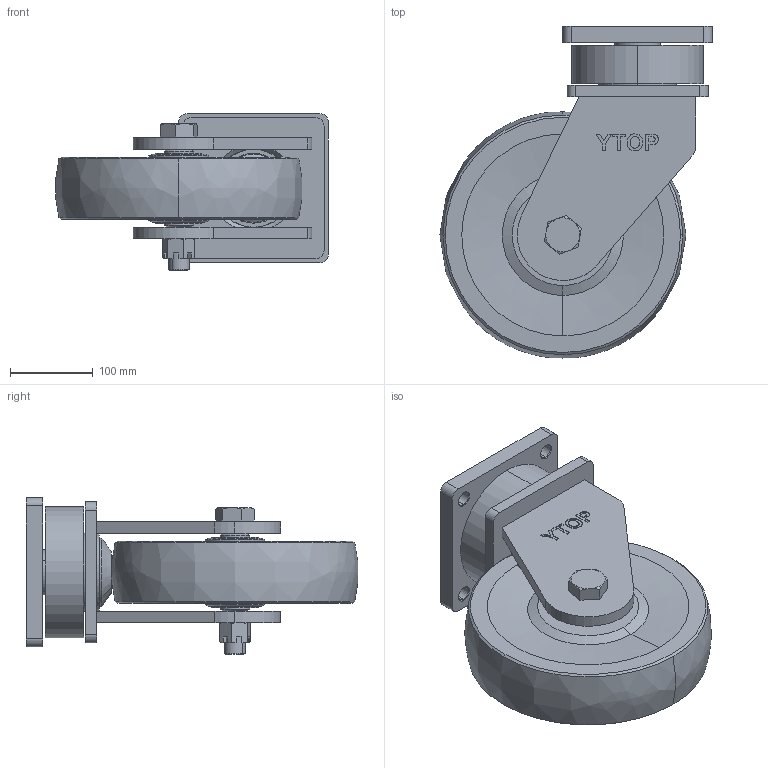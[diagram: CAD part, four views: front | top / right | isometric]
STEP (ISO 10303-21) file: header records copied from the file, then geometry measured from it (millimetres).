
FILE_DESCRIPTION (( 'STEP AP203' ), '1' );
FILE_NAME ('26-300H-75-MC.STEP', '2022-08-20T04:01:04', ( '' ), ( '' ), 'SwSTEP 2.0', 'SolidWorks 2016', '' );
FILE_SCHEMA (( 'CONFIG_CONTROL_DESIGN' ));
Length unit declared in the file: millimetre
Products named in the file (1): 26-300H-75-MC
Bounding box: 328.3 x 400.06 x 189 mm (x, y, z)
Volume: 7965056.8 mm3; surface area: 621980.2 mm2
Topology: 10 solids, 10 shells, 350 faces, 857 edges, 555 vertices
Faces by surface type: plane 151, cylinder 84, cone 77, bspline 38
Entity records: 12734 total; most frequent: CARTESIAN_POINT 4488, ORIENTED_EDGE 1714, DIRECTION 1621, EDGE_CURVE 857, AXIS2_PLACEMENT_3D 578, VERTEX_POINT 555, VECTOR 465, LINE 465
